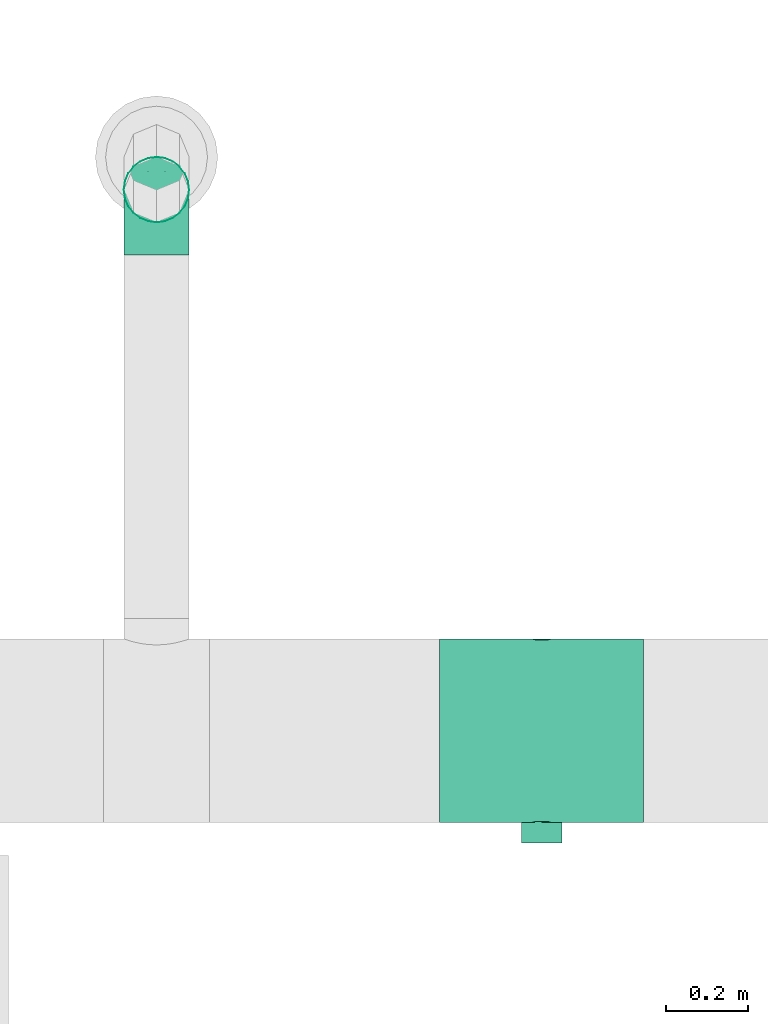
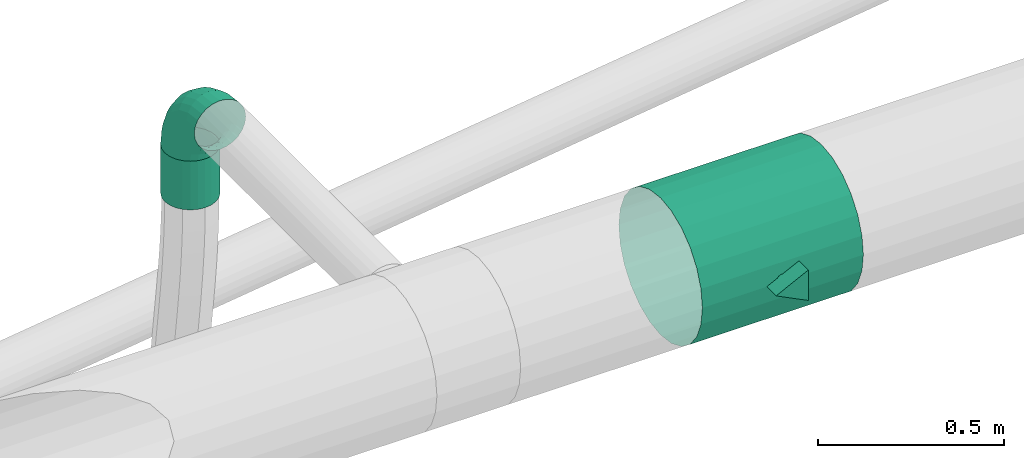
# One storey, part 165 of 374: 1 flow controller, 1 flow fitting, 1 flow segment.
"""IFC2X3 building model written with IfcOpenShell, lengths in metres."""

import ifcopenshell
import ifcopenshell.guid

model = None  # the IFC model being written
_history = None  # IfcOwnerHistory: only IFC2X3 demands one
_inside = {}  # id of a spatial element -> (the spatial element, [elements in it])
_under = {}  # id of a project, library or spatial element -> (it, [spatial elements below it])
_declared = {}  # id of a project -> (the project, [libraries it declares])
_typed = {}  # id of a type object -> (the type object, [elements of that type])
_made_of = {}  # id of a material, layer set ... -> (it, [elements and type objects made of it])


def new_model(schema):
    """Start an empty IFC model of exactly this schema.

    Asked for "IFC4X3", IfcOpenShell would pick the latest addendum, in which some entities
    have other attributes; the version numbers below select the first issue.
    IFC2X3 requires an IfcOwnerHistory on every rooted entity: one is made here for all.
    """
    global model, _history
    if schema == "IFC4X3":
        model = ifcopenshell.file(schema_version=(4, 3, 0, 0))
    else:
        model = ifcopenshell.file(schema=schema)
    _inside.clear()
    _under.clear()
    _declared.clear()
    _typed.clear()
    _made_of.clear()
    _history = None
    if model.schema == "IFC2X3":
        org = make("IfcOrganization", Name="unknown")
        user = make(
            "IfcPersonAndOrganization",
            ThePerson=make("IfcPerson", FamilyName="unknown"),
            TheOrganization=org,
        )
        app = make(
            "IfcApplication",
            ApplicationDeveloper=org,
            Version="unknown",
            ApplicationFullName="unknown",
            ApplicationIdentifier="unknown",
        )
        _history = make(
            "IfcOwnerHistory",
            OwningUser=user,
            OwningApplication=app,
            ChangeAction="ADDED",
            CreationDate=0,
        )
    return model


def make(cls, **values):
    """One entity of the class cls with the attributes given. An attribute that is None is left unset."""
    return model.create_entity(
        cls, **{name: value for name, value in values.items() if value is not None}
    )


def rooted(cls, **values):
    """An entity with a GlobalId (a new one), such as an element, a storey or a relation."""
    return make(cls, GlobalId=ifcopenshell.guid.new(), OwnerHistory=_history, **values)


def si_unit(unit_type, name, prefix=None):
    """IfcSIUnit, for example si_unit("LENGTHUNIT", "METRE", prefix="MILLI")."""
    return make("IfcSIUnit", UnitType=unit_type, Prefix=prefix, Name=name)


def assignment(units):
    """IfcUnitAssignment: the units of a project."""
    return None if units is None else make("IfcUnitAssignment", Units=units)


def point(xyz):
    """IfcCartesianPoint."""
    return None if xyz is None else make("IfcCartesianPoint", Coordinates=xyz)


def direction(xyz):
    """IfcDirection."""
    return None if xyz is None else make("IfcDirection", DirectionRatios=xyz)


def frame(location, z_axis=None, x_axis=None):
    """IfcAxis2Placement3D, a coordinate frame: its origin and axes. An axis left out is left unset."""
    return make(
        "IfcAxis2Placement3D",
        Location=point(location),
        Axis=direction(z_axis),
        RefDirection=direction(x_axis),
    )


def origin():
    """The frame at (0, 0, 0) with its axes left unset."""
    return frame((0.0, 0.0, 0.0))


def place(relative_to, where):
    """IfcLocalPlacement: puts the frame where relative to a parent placement (None: the world)."""
    return make(
        "IfcLocalPlacement", PlacementRelTo=relative_to, RelativePlacement=where
    )


def context(
    kind, dimensions, precision=None, world=None, true_north=None, identifier=None
):
    """IfcGeometricRepresentationContext, for example the 3D "Model" context."""
    return make(
        "IfcGeometricRepresentationContext",
        ContextIdentifier=identifier,
        ContextType=kind,
        CoordinateSpaceDimension=dimensions,
        Precision=precision,
        WorldCoordinateSystem=world,
        TrueNorth=true_north,
    )


def subcontext(parent, identifier, kind, view, scale=None):
    """IfcGeometricRepresentationSubContext, for example "Body" below "Model"."""
    return make(
        "IfcGeometricRepresentationSubContext",
        ContextIdentifier=identifier,
        ContextType=kind,
        ParentContext=parent,
        TargetScale=scale,
        TargetView=view,
    )


def project(units=None, contexts=None):
    """IfcProject with its units and contexts."""
    return rooted(
        "IfcProject",
        Name="project",
        RepresentationContexts=contexts,
        UnitsInContext=assignment(units),
    )


def spatial(cls, under=None, at=None, **own):
    """A site, building, storey or space (cls), placed at a placement, below another one or the project."""
    s = rooted(cls, ObjectPlacement=at, **own)
    if under is not None:
        _under.setdefault(under.id(), (under, []))[1].append(s)
    return s


def faces_of(points, faces, orient=None, outer=None):
    """IfcFace entities. A face is a list of loops; a loop is a list of indices into points, from 0.

    orient and outer hold one flag for each loop. By default every Orientation is true, the
    first loop of a face is its IfcFaceOuterBound and the others are IfcFaceBound.
    """
    made = []
    for i, loops in enumerate(faces):
        bounds = []
        for j, loop in enumerate(loops):
            is_outer = j == 0 if outer is None else outer[i][j]
            bounds.append(
                make(
                    "IfcFaceOuterBound" if is_outer else "IfcFaceBound",
                    Bound=make("IfcPolyLoop", Polygon=[points[k] for k in loop]),
                    Orientation=True if orient is None else orient[i][j],
                )
            )
        made.append(make("IfcFace", Bounds=bounds))
    return made


def open_shell(faces, orient=None, outer=None):
    """The faces of one IfcOpenShell. surface_model builds it on its shared points."""
    return ("IfcOpenShell", faces, orient, outer)


def surface_model(cls, points, shells):
    """IfcFaceBasedSurfaceModel or IfcShellBasedSurfaceModel (cls): surfaces that need not close."""
    shared = [point(p) for p in points]
    made = [make(c, CfsFaces=faces_of(shared, fs, o, b)) for c, fs, o, b in shells]
    if cls == "IfcFaceBasedSurfaceModel":
        return make(cls, FbsmFaces=made)
    return make(cls, SbsmBoundary=made)


def shape(context_of_items, identifier, shape_type, items):
    """IfcShapeRepresentation: the items that make up one representation, for example the "Body"."""
    return make(
        "IfcShapeRepresentation",
        ContextOfItems=context_of_items,
        RepresentationIdentifier=identifier,
        RepresentationType=shape_type,
        Items=items,
    )


def source(mapping_origin, context_of_items, identifier, shape_type, items):
    """IfcRepresentationMap: a shape defined once, which mapped items show again and again."""
    return make(
        "IfcRepresentationMap",
        MappingOrigin=mapping_origin,
        MappedRepresentation=shape(context_of_items, identifier, shape_type, items),
    )


def transform(
    local_origin,
    x_axis=None,
    y_axis=None,
    z_axis=None,
    scale=None,
    scale2=None,
    scale3=None,
    uniform=True,
):
    """IfcCartesianTransformationOperator3D, or its non-uniform kind. x_axis, y_axis, z_axis: its Axis1, 2, 3."""
    if uniform:
        return make(
            "IfcCartesianTransformationOperator3D",
            Axis1=direction(x_axis),
            Axis2=direction(y_axis),
            LocalOrigin=point(local_origin),
            Scale=scale,
            Axis3=direction(z_axis),
        )
    return make(
        "IfcCartesianTransformationOperator3DnonUniform",
        Axis1=direction(x_axis),
        Axis2=direction(y_axis),
        LocalOrigin=point(local_origin),
        Scale=scale,
        Axis3=direction(z_axis),
        Scale2=scale2,
        Scale3=scale3,
    )


def mapped(mapping_source, mapping_target):
    """IfcMappedItem: shows the shape of a source again, moved by a transform."""
    return make(
        "IfcMappedItem", MappingSource=mapping_source, MappingTarget=mapping_target
    )


def made_of(thing, what):
    """Note that an element or type object is made of a material, layer set ...; save() writes the relation."""
    if what is not None:
        _made_of.setdefault(what.id(), (what, []))[1].append(thing)
    return thing


def element(
    cls,
    number,
    at=None,
    inside=None,
    cuts=None,
    type_object=None,
    material=None,
    context=None,
    identifier="Body",
    shape_type=None,
    held_by="IfcProductDefinitionShape",
    body=None,
    shapes=None,
    **own,
):
    """One element of the class cls, such as IfcWall. Its Tag is "e" and its number.

    at: its placement. inside: the storey or other place that contains it. cuts: it is an
    opening in that element (IfcRelVoidsElement). A single representation is given by context,
    identifier, shape_type and body (its items); several are given by shapes. held_by: the class
    of the entity that holds the representations. save() writes the other relations.
    """
    e = rooted(cls, Tag="e%d" % number, ObjectPlacement=at, **own)
    if body is not None:
        shapes = [shape(context, identifier, shape_type, body)]
    if shapes is not None:
        e.Representation = make(held_by, Representations=shapes)
    if inside is not None:
        _inside.setdefault(inside.id(), (inside, []))[1].append(e)
    if cuts is not None:
        rooted(
            "IfcRelVoidsElement", RelatingBuildingElement=cuts, RelatedOpeningElement=e
        )
    if type_object is not None:
        _typed.setdefault(type_object.id(), (type_object, []))[1].append(e)
    return made_of(e, material)


def aggregate(whole, parts):
    """IfcRelAggregates: a whole, such as a stair, and the parts it consists of."""
    return rooted("IfcRelAggregates", RelatingObject=whole, RelatedObjects=parts)


def save(model, path):
    """Write the relations noted so far, then the file.

    IfcRelAggregates (storeys below a building ...), IfcRelContainedInSpatialStructure (elements
    in a storey), IfcRelDefinesByType, IfcRelAssociatesMaterial and IfcRelDeclares: one each for
    every whole, place, type object, material and project.
    """
    for whole, parts in _under.values():
        aggregate(whole, parts)
    for where, things in _inside.values():
        rooted(
            "IfcRelContainedInSpatialStructure",
            RelatedElements=things,
            RelatingStructure=where,
        )
    for kind, things in _typed.values():
        rooted("IfcRelDefinesByType", RelatedObjects=things, RelatingType=kind)
    for what, things in _made_of.values():
        rooted("IfcRelAssociatesMaterial", RelatedObjects=things, RelatingMaterial=what)
    for by, libraries in _declared.values():
        rooted("IfcRelDeclares", RelatingContext=by, RelatedDefinitions=libraries)
    model.write(path)


model = new_model("IFC2X3")

# Units and contexts
model_context = context("Model", 3, precision=1e-05, world=origin(), true_north=direction((-0.4480736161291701, 0.8939966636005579)))
body_context = subcontext(model_context, "Body", "Model", "MODEL_VIEW")
ifc_project = project(units=[si_unit("LENGTHUNIT", "METRE"), si_unit("AREAUNIT", "SQUARE_METRE"), si_unit("VOLUMEUNIT", "CUBIC_METRE"), si_unit("PLANEANGLEUNIT", "RADIAN"), si_unit("THERMODYNAMICTEMPERATUREUNIT", "KELVIN"), si_unit("MASSUNIT", "GRAM", prefix="KILO"), si_unit("TIMEUNIT", "SECOND")], contexts=[model_context])

# Site, building, storey
site_placement = place(None, origin())
site = spatial("IfcSite", under=ifc_project, at=site_placement, Name="Site 1", CompositionType="ELEMENT")
building_placement = place(site_placement, origin())
building = spatial("IfcBuilding", under=site, at=building_placement, Name="Undefined", CompositionType="ELEMENT")
storey_placement = place(building_placement, origin())
storey = spatial("IfcBuildingStorey", under=building, at=storey_placement, Name="Rez de chauss\x8ee", CompositionType="ELEMENT", Elevation=0.0)

# Flow fitting
shared_shape_1 = source(origin(), body_context, "Body", "SurfaceModel", [
    surface_model("IfcFaceBasedSurfaceModel", [(0.06265257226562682, -8.8817842e-16, 0.0), (0.062296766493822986, 0.02088115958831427, -7.105427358e-15), (0.0003558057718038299, 0.020881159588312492, 7.105427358e-15), (0.0, 0.0, 0.0), (-0.059474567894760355, 0.022956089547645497, -0.015896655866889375), (-0.06051773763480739, 0.002098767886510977, -0.01607928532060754), (-0.11311701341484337, 0.02696454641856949, -0.04660663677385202), (-0.11477645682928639, 0.006153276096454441, -0.04714207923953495), (-0.15691588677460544, 0.0326333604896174, -0.09003710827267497), (-0.15907851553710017, 0.01188721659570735, -0.09107150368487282), (-0.18788636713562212, 0.03957621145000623, -0.14322835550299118), (-0.1904048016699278, 0.01890983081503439, -0.14487384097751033), (-0.2039178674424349, 0.04731995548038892, -0.20255548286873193), (-0.20662048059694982, 0.026742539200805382, -0.20488255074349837), (0.061253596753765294, 0.04103889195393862, -0.0053597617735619), (0.0013989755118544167, 0.04103889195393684, -0.005359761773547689), (-0.05641614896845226, 0.04304393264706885, -0.02072097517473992), (-0.10825177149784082, 0.04691737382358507, -0.050396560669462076), (-0.15057538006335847, 0.05239524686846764, -0.09236417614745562), (-0.18050269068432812, 0.05910424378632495, -0.14376379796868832), (-0.19599420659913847, 0.06658715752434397, -0.20109262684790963), (0.05959415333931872, 0.05909948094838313, -0.01571402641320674), (0.003058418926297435, 0.05909948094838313, -0.01571402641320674), (-0.05155090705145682, 0.06099334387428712, -0.030223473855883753), (-0.10051228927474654, 0.06465200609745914, -0.058253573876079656), (-0.1404890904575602, 0.0698261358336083, -0.09789412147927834), (-0.16875695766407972, 0.0761631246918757, -0.14644367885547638), (-0.18338948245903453, 0.08323111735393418, -0.2005936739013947), (0.057431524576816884, 0.07383212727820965, -0.030357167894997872), (0.005221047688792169, 0.07383212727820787, -0.03035716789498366), (-0.0452104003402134, 0.07558110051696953, -0.04375657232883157), (-0.09042599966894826, 0.07895985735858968, -0.06964223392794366), (-0.12734438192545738, 0.08373814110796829, -0.10625008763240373), (-0.15344962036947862, 0.08959031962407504, -0.15108536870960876), (-0.16696268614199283, 0.0961175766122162, -0.20109262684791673), (0.054913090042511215, 0.0842328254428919, -0.048291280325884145), (0.007739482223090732, 0.08423282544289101, -0.04829128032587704), (-0.037826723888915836, 0.08581307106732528, -0.06039801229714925), (-0.07868026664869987, 0.08886587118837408, -0.08378642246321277), (-0.11203704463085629, 0.09318318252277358, -0.11686262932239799), (-0.13562384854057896, 0.09847078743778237, -0.1573725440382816), (-0.14783327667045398, 0.10436834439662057, -0.20255548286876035), (0.05221047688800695, 0.0895927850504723, -0.06829418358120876), (0.010442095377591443, 0.08959278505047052, -0.06829418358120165), (-0.029903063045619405, 0.09099196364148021, -0.07901370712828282), (-0.06607554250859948, 0.09369496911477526, -0.0997222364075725), (-0.0956102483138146, 0.0975175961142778, -0.12900851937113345), (-0.11649443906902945, 0.10219933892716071, -0.16487674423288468), (-0.12730489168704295, 0.1074211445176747, -0.2048825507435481), (0.04950786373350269, 0.08954673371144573, -0.08900271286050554), (0.013144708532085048, 0.08954673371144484, -0.08900271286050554), (-0.02197940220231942, 0.09076484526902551, -0.09833502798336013), (-0.05347081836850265, 0.09311805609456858, -0.11636367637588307), (-0.0791834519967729, 0.09644599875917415, -0.14186003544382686), (-0.09736502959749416, 0.10052187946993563, -0.17308657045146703), (-0.10677650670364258, 0.1050679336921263, -0.20791524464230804), (0.04698942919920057, 0.08409780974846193, -0.10900561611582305), (0.015663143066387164, 0.08409780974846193, -0.10900561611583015), (-0.014595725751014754, 0.08514719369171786, -0.11704525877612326), (-0.0417250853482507, 0.0871744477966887, -0.13257665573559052), (-0.06387611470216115, 0.09004141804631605, -0.15454136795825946), (-0.07953925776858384, 0.09355272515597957, -0.1814425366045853), (-0.08764709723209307, 0.09746907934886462, -0.21144689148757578), (0.04482680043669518, 0.0736173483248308, -0.12693972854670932), (0.017825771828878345, 0.0736173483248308, -0.12693972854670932), (-0.008255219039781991, 0.07452184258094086, -0.13386932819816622), (-0.03163879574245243, 0.0762691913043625, -0.14725628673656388), (-0.050731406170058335, 0.07874031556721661, -0.1661883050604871), (-0.06423192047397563, 0.08176681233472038, -0.18937519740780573), (-0.07122030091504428, 0.08514243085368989, -0.21523681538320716), (0.04316735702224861, 0.058819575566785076, -0.14158287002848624), (0.019485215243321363, 0.058819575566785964, -0.14158287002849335), (-0.0033899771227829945, 0.05961289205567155, -0.14766070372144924), (-0.02389931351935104, 0.06114546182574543, -0.15940217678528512), (-0.04064511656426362, 0.06331284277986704, -0.17600712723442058), (-0.052486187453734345, 0.06596733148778, -0.19634395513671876), (-0.05861557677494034, 0.06892802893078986, -0.2190267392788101), (0.04212418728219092, 0.040712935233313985, -0.15193713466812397), (0.020528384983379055, 0.040712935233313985, -0.15193713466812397), (-0.0003315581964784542, 0.041436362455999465, -0.15747952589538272), (-0.019034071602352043, 0.04283391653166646, -0.16818660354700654), (-0.03430460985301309, 0.04481035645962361, -0.1833286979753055), (-0.04510251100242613, 0.047230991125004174, -0.20187390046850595), (-0.05069191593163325, 0.04993085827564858, -0.22255838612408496), (0.04176838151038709, 0.02053136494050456, -0.15729689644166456), (0.020884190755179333, 0.02053136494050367, -0.15729689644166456), (0.0007116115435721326, 0.021230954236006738, -0.16265665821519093), (-0.017374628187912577, 0.022582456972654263, -0.17301092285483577), (-0.03214198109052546, 0.024493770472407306, -0.1876540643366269), (-0.042584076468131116, 0.026834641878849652, -0.20558817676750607), (-0.04798930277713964, 0.02944554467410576, -0.22559108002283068), (0.04212418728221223, -0.000349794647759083, -0.15729689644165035), (0.020528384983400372, -0.000349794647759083, -0.15729689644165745), (-0.0003315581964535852, 0.00037363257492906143, -0.1628392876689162), (-0.019034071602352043, 0.0017711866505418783, -0.17354636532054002), (-0.03430460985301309, 0.0037476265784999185, -0.18868845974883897), (-0.04510251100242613, 0.00616826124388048, -0.20723366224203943), (-0.05069191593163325, 0.008868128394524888, -0.22791814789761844), (0.04316735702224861, -0.020507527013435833, -0.15193713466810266), (0.019485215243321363, -0.020507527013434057, -0.15193713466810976), (-0.0033899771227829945, -0.019714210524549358, -0.15801496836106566), (-0.02389931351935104, -0.01818164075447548, -0.16975644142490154), (-0.04064511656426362, -0.01601425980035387, -0.186361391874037), (-0.052486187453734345, -0.013359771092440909, -0.20669821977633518), (-0.05861557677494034, -0.010399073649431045, -0.22938100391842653), (0.04482680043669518, -0.03856811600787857, -0.1415828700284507), (0.017825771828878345, -0.03856811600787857, -0.1415828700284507), (-0.008255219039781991, -0.03766362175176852, -0.1485124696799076), (-0.03163879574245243, -0.03591627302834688, -0.16189942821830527), (-0.050731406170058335, -0.03344514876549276, -0.1808314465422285), (-0.06423192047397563, -0.030418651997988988, -0.20401833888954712), (-0.07122030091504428, -0.027043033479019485, -0.22987995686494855), (0.04698942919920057, -0.05330076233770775, -0.12693972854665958), (0.015663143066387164, -0.05330076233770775, -0.12693972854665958), (-0.014595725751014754, -0.05225137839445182, -0.1349793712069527), (-0.0417250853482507, -0.05022412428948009, -0.15051076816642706), (-0.06387611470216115, -0.047357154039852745, -0.172475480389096), (-0.07953925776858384, -0.043845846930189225, -0.19937664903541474), (-0.08764709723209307, -0.03992949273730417, -0.2293810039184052), (0.04950786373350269, -0.06370146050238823, -0.10900561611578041), (0.013144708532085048, -0.06370146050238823, -0.10900561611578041), (-0.02197940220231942, -0.06248334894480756, -0.11833793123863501), (-0.05347081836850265, -0.06013013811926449, -0.13636657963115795), (-0.0791834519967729, -0.05680219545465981, -0.16186293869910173), (-0.09736502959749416, -0.05272631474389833, -0.1930894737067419), (-0.10677650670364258, -0.04818026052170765, -0.2279181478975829), (0.05221047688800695, -0.06906142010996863, -0.08900271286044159), (0.010442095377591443, -0.06906142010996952, -0.08900271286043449), (-0.029903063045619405, -0.06766224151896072, -0.09972223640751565), (-0.06607554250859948, -0.06495923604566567, -0.12043076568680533), (-0.0956102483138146, -0.06113660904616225, -0.14971704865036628), (-0.11649443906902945, -0.05645486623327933, -0.1855852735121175), (-0.12730489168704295, -0.05123306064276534, -0.22559108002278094), (0.054913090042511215, -0.06901536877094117, -0.06829418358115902), (0.007739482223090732, -0.06901536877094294, -0.06829418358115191), (-0.037826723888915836, -0.06743512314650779, -0.08040091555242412), (-0.07868026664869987, -0.06438232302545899, -0.10378932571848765), (-0.11203704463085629, -0.06006501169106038, -0.13686553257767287), (-0.13562384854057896, -0.0547774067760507, -0.17737544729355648), (-0.14783327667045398, -0.04887984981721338, -0.22255838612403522), (0.057431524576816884, -0.06356644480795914, -0.0482912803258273), (0.005221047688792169, -0.06356644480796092, -0.04829128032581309), (-0.0452104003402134, -0.061817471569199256, -0.0616906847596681), (-0.09042599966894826, -0.05843871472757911, -0.0875763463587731), (-0.12734438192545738, -0.05366043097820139, -0.12418420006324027), (-0.15344962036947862, -0.04780825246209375, -0.1690194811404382), (-0.16696268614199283, -0.041280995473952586, -0.21902673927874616), (0.05959415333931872, -0.05308598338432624, -0.030357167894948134), (0.003058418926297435, -0.05308598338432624, -0.030357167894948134), (-0.05155090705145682, -0.05119212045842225, -0.04486661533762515), (-0.10051228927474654, -0.04753345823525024, -0.07289671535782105), (-0.1404890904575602, -0.04235932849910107, -0.11253726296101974), (-0.16875695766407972, -0.03602233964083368, -0.16108682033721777), (-0.18338948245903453, -0.02895434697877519, -0.2152368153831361), (0.061253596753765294, -0.03828821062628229, -0.015714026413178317), (0.0013989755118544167, -0.03828821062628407, -0.015714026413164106), (-0.05641614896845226, -0.03628316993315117, -0.031075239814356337), (-0.10825177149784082, -0.03240972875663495, -0.06075082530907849), (-0.15057538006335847, -0.026931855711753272, -0.10271844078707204), (-0.18050269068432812, -0.02022285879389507, -0.15411806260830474), (-0.19599420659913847, -0.012739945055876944, -0.21144689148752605), (0.062296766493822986, -0.020181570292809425, -0.005359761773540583), (0.0003558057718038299, -0.020181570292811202, -0.0053597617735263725), (-0.059474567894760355, -0.018106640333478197, -0.021256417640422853), (-0.11311701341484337, -0.014098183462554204, -0.051966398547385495), (-0.15691588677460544, -0.00842936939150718, -0.09539687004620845), (-0.18788636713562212, -0.0014865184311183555, -0.14858811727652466), (-0.2039178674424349, 0.006257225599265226, -0.2079152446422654)], [open_shell([[[0, 1, 2, 3]], [[3, 2, 4, 5]], [[5, 4, 6, 7]], [[7, 6, 8, 9]], [[9, 8, 10, 11]], [[11, 10, 12, 13]], [[1, 14, 15, 2]], [[2, 15, 16, 4]], [[4, 16, 17, 6]], [[6, 17, 18, 8]], [[8, 18, 19, 10]], [[10, 19, 20, 12]], [[14, 21, 22, 15]], [[15, 22, 23, 16]], [[16, 23, 24, 17]], [[17, 24, 25, 18]], [[18, 25, 26, 19]], [[19, 26, 27, 20]], [[21, 28, 29, 22]], [[22, 29, 30, 23]], [[23, 30, 31, 24]], [[24, 31, 32, 25]], [[25, 32, 33, 26]], [[26, 33, 34, 27]], [[28, 35, 36, 29]], [[29, 36, 37, 30]], [[30, 37, 38, 31]], [[31, 38, 39, 32]], [[32, 39, 40, 33]], [[33, 40, 41, 34]], [[35, 42, 43, 36]], [[36, 43, 44, 37]], [[37, 44, 45, 38]], [[38, 45, 46, 39]], [[39, 46, 47, 40]], [[40, 47, 48, 41]], [[42, 49, 50, 43]], [[43, 50, 51, 44]], [[44, 51, 52, 45]], [[45, 52, 53, 46]], [[46, 53, 54, 47]], [[47, 54, 55, 48]], [[49, 56, 57, 50]], [[50, 57, 58, 51]], [[51, 58, 59, 52]], [[52, 59, 60, 53]], [[53, 60, 61, 54]], [[54, 61, 62, 55]], [[56, 63, 64, 57]], [[57, 64, 65, 58]], [[58, 65, 66, 59]], [[59, 66, 67, 60]], [[60, 67, 68, 61]], [[61, 68, 69, 62]], [[63, 70, 71, 64]], [[64, 71, 72, 65]], [[65, 72, 73, 66]], [[66, 73, 74, 67]], [[67, 74, 75, 68]], [[68, 75, 76, 69]], [[70, 77, 78, 71]], [[71, 78, 79, 72]], [[72, 79, 80, 73]], [[73, 80, 81, 74]], [[74, 81, 82, 75]], [[75, 82, 83, 76]], [[77, 84, 85, 78]], [[78, 85, 86, 79]], [[79, 86, 87, 80]], [[80, 87, 88, 81]], [[81, 88, 89, 82]], [[82, 89, 90, 83]], [[84, 91, 92, 85]], [[85, 92, 93, 86]], [[86, 93, 94, 87]], [[87, 94, 95, 88]], [[88, 95, 96, 89]], [[89, 96, 97, 90]], [[91, 98, 99, 92]], [[92, 99, 100, 93]], [[93, 100, 101, 94]], [[94, 101, 102, 95]], [[95, 102, 103, 96]], [[96, 103, 104, 97]], [[98, 105, 106, 99]], [[99, 106, 107, 100]], [[100, 107, 108, 101]], [[101, 108, 109, 102]], [[102, 109, 110, 103]], [[103, 110, 111, 104]], [[105, 112, 113, 106]], [[106, 113, 114, 107]], [[107, 114, 115, 108]], [[108, 115, 116, 109]], [[109, 116, 117, 110]], [[110, 117, 118, 111]], [[112, 119, 120, 113]], [[113, 120, 121, 114]], [[114, 121, 122, 115]], [[115, 122, 123, 116]], [[116, 123, 124, 117]], [[117, 124, 125, 118]], [[119, 126, 127, 120]], [[120, 127, 128, 121]], [[121, 128, 129, 122]], [[122, 129, 130, 123]], [[123, 130, 131, 124]], [[124, 131, 132, 125]], [[126, 133, 134, 127]], [[127, 134, 135, 128]], [[128, 135, 136, 129]], [[129, 136, 137, 130]], [[130, 137, 138, 131]], [[131, 138, 139, 132]], [[133, 140, 141, 134]], [[134, 141, 142, 135]], [[135, 142, 143, 136]], [[136, 143, 144, 137]], [[137, 144, 145, 138]], [[138, 145, 146, 139]], [[140, 147, 148, 141]], [[141, 148, 149, 142]], [[142, 149, 150, 143]], [[143, 150, 151, 144]], [[144, 151, 152, 145]], [[145, 152, 153, 146]], [[147, 154, 155, 148]], [[148, 155, 156, 149]], [[149, 156, 157, 150]], [[150, 157, 158, 151]], [[151, 158, 159, 152]], [[152, 159, 160, 153]], [[154, 161, 162, 155]], [[155, 162, 163, 156]], [[156, 163, 164, 157]], [[157, 164, 165, 158]], [[158, 165, 166, 159]], [[159, 166, 167, 160]], [[161, 0, 3, 162]], [[162, 3, 5, 163]], [[163, 5, 7, 164]], [[164, 7, 9, 165]], [[165, 9, 11, 166]], [[166, 11, 13, 167]]])]),
])
flow_fitting_placement = place(storey_placement, origin())
element("IfcFlowFitting", 1, at=flow_fitting_placement, inside=storey, Name="Coude", ObjectType="Coude", context=body_context, shape_type="MappedRepresentation", body=[
    mapped(shared_shape_1, transform((49.430711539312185, 21.92514358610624, 3.7021165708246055), x_axis=(0.0, 0.13052619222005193, -0.9914448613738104), y_axis=(-0.9915887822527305, -0.12832103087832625, -0.016893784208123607), z_axis=(-0.12942830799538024, 0.9831056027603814, 0.12942830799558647))),
])

# Flow controller
shared_shape_2 = source(origin(), body_context, "Body", "SurfaceModel", [
    surface_model("IfcFaceBasedSurfaceModel", [(0.059130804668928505, 0.0, 8.8817842e-16), (0.0648933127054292, 0.049666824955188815, 8.8817842e-16), (0.006547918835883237, 0.0564362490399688, 0.0), (0.0, 0.0, 0.0), (-0.04980940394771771, 0.0629750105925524, -0.015202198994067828), (-0.058660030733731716, -0.013308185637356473, -0.015202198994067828), (-0.10033799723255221, 0.06883750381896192, -0.04457059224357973), (-0.11285170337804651, -0.03901762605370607, -0.04457059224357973), (-0.14159442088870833, 0.07362420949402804, -0.0861037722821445), (-0.15888194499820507, -0.0753762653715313, -0.0861037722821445), (-0.1707671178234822, 0.07700892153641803, -0.13697132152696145), (-0.1936138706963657, -0.11990632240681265, -0.13697132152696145), (-0.18586801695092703, 0.0787609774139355, -0.19370670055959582), (-0.21468055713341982, -0.16957314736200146, -0.19370670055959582), (-0.18586801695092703, 0.0787609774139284, -0.25244348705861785), (-0.2206463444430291, -0.22099202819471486, -0.25244348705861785), (-0.1707671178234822, 0.07700892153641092, -0.3091788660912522), (-0.21110467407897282, -0.2706588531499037, -0.3091788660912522), (-0.14159442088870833, 0.07362420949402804, -0.3600464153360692), (-0.18670579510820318, -0.31518891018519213, -0.3600464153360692), (-0.10033799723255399, 0.06883750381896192, -0.40157959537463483), (-0.14911245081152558, -0.35154754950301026, -0.40157959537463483), (-0.04980940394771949, 0.0629750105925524, -0.43094798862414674), (-0.10088656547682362, -0.37725698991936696, -0.43094798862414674), (0.006547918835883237, 0.056436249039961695, -0.44615018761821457), (-0.04531465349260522, -0.39056517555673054, -0.44615018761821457), (0.0648933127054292, 0.049666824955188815, -0.44615018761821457), (0.013816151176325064, -0.39056517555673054, -0.44615018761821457), (0.12125063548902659, 0.04312806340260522, -0.43094798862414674), (0.072476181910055, -0.37725698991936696, -0.43094798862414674), (0.1717792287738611, 0.037265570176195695, -0.4015795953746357), (0.12666785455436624, -0.35154754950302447, -0.4015795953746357), (0.21303565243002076, 0.03247886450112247, -0.3600464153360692), (0.17269809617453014, -0.31518891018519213, -0.3600464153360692), (0.24220834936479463, 0.029094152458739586, -0.3091788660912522), (0.20743002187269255, -0.2706588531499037, -0.3091788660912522), (0.2573092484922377, 0.027342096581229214, -0.25244348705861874), (0.2284967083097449, -0.22099202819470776, -0.25244348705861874), (0.25730924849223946, 0.027342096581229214, -0.19370670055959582), (0.23446249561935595, -0.16957314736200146, -0.19370670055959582), (0.24220834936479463, 0.029094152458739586, -0.13697132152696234), (0.22492082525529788, -0.11990632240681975, -0.13697132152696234), (0.2130356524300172, 0.03247886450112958, -0.0861037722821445), (0.2005219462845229, -0.07537626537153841, -0.0861037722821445), (0.17177922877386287, 0.037265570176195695, -0.04457059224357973), (0.16292860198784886, -0.03901762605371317, -0.04457059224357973), (0.12125063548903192, 0.04312806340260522, -0.015202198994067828), (0.11470271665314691, -0.013308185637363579, -0.015202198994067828), (0.007268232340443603, -0.44700142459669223, 8.8817842e-16), (-0.051077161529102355, -0.44023200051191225, 0.0), (-0.1074344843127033, -0.43369323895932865, -0.015202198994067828), (-0.1579630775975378, -0.4278307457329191, -0.04457059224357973), (-0.19921950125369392, -0.423044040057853, -0.0861037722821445), (-0.2283921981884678, -0.419659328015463, -0.13697132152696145), (-0.24349309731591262, -0.41790727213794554, -0.19370670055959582), (-0.24349309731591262, -0.41790727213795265, -0.25244348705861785), (-0.2283921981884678, -0.4196593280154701, -0.3091788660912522), (-0.19921950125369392, -0.423044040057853, -0.3600464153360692), (-0.15796307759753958, -0.4278307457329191, -0.40157959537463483), (-0.10743448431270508, -0.43369323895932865, -0.43094798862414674), (-0.051077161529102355, -0.44023200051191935, -0.44615018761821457), (0.007268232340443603, -0.44700142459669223, -0.44615018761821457), (0.063625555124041, -0.4535401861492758, -0.43094798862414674), (0.1141541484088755, -0.45940267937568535, -0.4015795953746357), (0.15541057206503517, -0.4641893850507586, -0.3600464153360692), (0.18458326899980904, -0.46757409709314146, -0.3091788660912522), (0.1996841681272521, -0.46932615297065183, -0.25244348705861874), (0.19968416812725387, -0.46932615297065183, -0.19370670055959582), (0.18458326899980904, -0.46757409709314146, -0.13697132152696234), (0.15541057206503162, -0.46418938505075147, -0.0861037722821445), (0.11415414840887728, -0.45940267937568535, -0.04457059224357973), (0.06362555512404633, -0.4535401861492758, -0.015202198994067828), (0.2314139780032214, -0.22133049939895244, -0.23013597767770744), (0.23198572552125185, -0.21553434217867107, -0.23089608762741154), (-0.21119153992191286, -0.16411546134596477, -0.17215930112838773), (-0.21176328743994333, -0.16991161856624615, -0.17139919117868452), (0.23231970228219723, -0.21011011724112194, -0.23312461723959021), (-0.2108575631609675, -0.15869123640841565, -0.1743878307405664), (0.2323931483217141, -0.20542747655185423, -0.236669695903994), (-0.21078411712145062, -0.15400859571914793, -0.1779329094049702), (0.23220105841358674, -0.20180553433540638, -0.24128973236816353), (-0.21097620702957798, -0.15038665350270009, -0.18255294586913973), (0.23175652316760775, -0.19949111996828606, -0.2466698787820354), (-0.21142074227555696, -0.14807223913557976, -0.18793309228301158), (0.23108983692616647, -0.1986419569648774, -0.25244348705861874), (-0.21208742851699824, -0.14722307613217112, -0.19370670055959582), (0.23024643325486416, -0.1993159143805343, -0.2582170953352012), (-0.21293083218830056, -0.14789703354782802, -0.1994803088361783), (0.22928378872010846, -0.2014670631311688, -0.26359724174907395), (-0.21389347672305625, -0.1500481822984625, -0.20486045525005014), (0.22826750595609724, -0.20494880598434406, -0.2682172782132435), (-0.21490975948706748, -0.15352992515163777, -0.20948049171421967), (0.22726684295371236, -0.20952386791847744, -0.27176235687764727), (-0.21591042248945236, -0.15810498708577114, -0.21302557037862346), (0.22634999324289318, -0.21488046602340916, -0.27399088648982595), (-0.21682727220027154, -0.16346158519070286, -0.21525409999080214), (0.22557943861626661, -0.22065355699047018, -0.27475099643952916), (-0.2175978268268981, -0.16923467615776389, -0.21601420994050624), (0.2250076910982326, -0.22644971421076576, -0.27399088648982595), (-0.21816957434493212, -0.17503083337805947, -0.21525409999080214), (0.224673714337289, -0.2318739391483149, -0.27176235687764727), (-0.21850355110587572, -0.1804550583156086, -0.21302557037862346), (0.22460026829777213, -0.2365565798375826, -0.2682172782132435), (-0.21857699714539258, -0.1851376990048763, -0.20948049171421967), (0.22479235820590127, -0.24017852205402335, -0.26359724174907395), (-0.21838490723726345, -0.18875964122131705, -0.20486045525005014), (0.2252368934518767, -0.24249293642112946, -0.2582170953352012), (-0.21794037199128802, -0.19107405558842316, -0.1994803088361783), (0.22590357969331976, -0.2433420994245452, -0.25244348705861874), (-0.21727368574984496, -0.19192321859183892, -0.19370670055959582), (0.2267469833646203, -0.2426681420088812, -0.2466698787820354), (-0.21643028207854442, -0.1912492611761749, -0.18793309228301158), (0.22770962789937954, -0.24051699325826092, -0.24128973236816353), (-0.21546763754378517, -0.18909811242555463, -0.18255294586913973), (0.228725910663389, -0.23703525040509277, -0.236669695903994), (-0.21445135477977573, -0.18561636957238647, -0.1779329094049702), (0.22972657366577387, -0.2324601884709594, -0.23312461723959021), (-0.21345069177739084, -0.1810413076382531, -0.1743878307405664), (0.23064342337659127, -0.22710359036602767, -0.23089608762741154), (-0.21253384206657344, -0.17568470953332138, -0.17215930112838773), (-0.22692588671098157, -0.21848781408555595, -0.24327894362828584), (-0.21396024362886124, -0.21999213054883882, -0.14413445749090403), (-0.2632021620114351, -0.214278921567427, -0.1376081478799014), (-0.27616780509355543, -0.21277460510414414, -0.2367526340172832), (-0.2089180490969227, -0.11990632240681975, -0.19370670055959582), (-0.25815996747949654, -0.11419311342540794, -0.18718039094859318)], [open_shell([[[0, 1, 2, 3]], [[3, 2, 4, 5]], [[5, 4, 6, 7]], [[7, 6, 8, 9]], [[9, 8, 10, 11]], [[11, 10, 12, 13]], [[13, 12, 14, 15]], [[15, 14, 16, 17]], [[17, 16, 18, 19]], [[19, 18, 20, 21]], [[21, 20, 22, 23]], [[23, 22, 24, 25]], [[25, 24, 26, 27]], [[27, 26, 28, 29]], [[29, 28, 30, 31]], [[31, 30, 32, 33]], [[33, 32, 34, 35]], [[35, 34, 36, 37]], [[37, 36, 38, 39]], [[39, 38, 40, 41]], [[41, 40, 42, 43]], [[43, 42, 44, 45]], [[45, 44, 46, 47]], [[47, 46, 1, 0]], [[48, 0, 3, 49]], [[49, 3, 5, 50]], [[50, 5, 7, 51]], [[51, 7, 9, 52]], [[52, 9, 11, 53]], [[53, 11, 13, 54]], [[54, 13, 15, 55]], [[55, 15, 17, 56]], [[56, 17, 19, 57]], [[57, 19, 21, 58]], [[58, 21, 23, 59]], [[59, 23, 25, 60]], [[60, 25, 27, 61]], [[61, 27, 29, 62]], [[62, 29, 31, 63]], [[63, 31, 33, 64]], [[64, 33, 35, 65]], [[65, 35, 37, 66]], [[66, 37, 39, 67]], [[67, 39, 41, 68]], [[68, 41, 43, 69]], [[69, 43, 45, 70]], [[70, 45, 47, 71]], [[71, 47, 0, 48]], [[72, 73, 74, 75]], [[73, 76, 77, 74]], [[76, 78, 79, 77]], [[78, 80, 81, 79]], [[80, 82, 83, 81]], [[82, 84, 85, 83]], [[84, 86, 87, 85]], [[86, 88, 89, 87]], [[88, 90, 91, 89]], [[90, 92, 93, 91]], [[92, 94, 95, 93]], [[94, 96, 97, 95]], [[96, 98, 99, 97]], [[98, 100, 101, 99]], [[100, 102, 103, 101]], [[102, 104, 105, 103]], [[104, 106, 107, 105]], [[106, 108, 109, 107]], [[108, 110, 111, 109]], [[110, 112, 113, 111]], [[112, 114, 115, 113]], [[114, 116, 117, 115]], [[116, 118, 119, 117]], [[118, 72, 75, 119]], [[37, 73, 72]], [[37, 76, 73]], [[37, 78, 76]], [[37, 80, 78]], [[37, 82, 80]], [[37, 84, 82]], [[37, 86, 84]], [[37, 88, 86]], [[37, 90, 88]], [[37, 92, 90]], [[37, 94, 92]], [[37, 96, 94]], [[37, 98, 96]], [[37, 100, 98]], [[37, 102, 100]], [[37, 104, 102]], [[37, 106, 104]], [[37, 108, 106]], [[37, 110, 108]], [[37, 112, 110]], [[37, 114, 112]], [[37, 116, 114]], [[37, 118, 116]], [[37, 72, 118]], [[13, 119, 75]], [[13, 117, 119]], [[13, 115, 117]], [[13, 113, 115]], [[13, 111, 113]], [[13, 109, 111]], [[13, 107, 109]], [[13, 105, 107]], [[13, 103, 105]], [[13, 101, 103]], [[13, 99, 101]], [[13, 97, 99]], [[13, 95, 97]], [[13, 93, 95]], [[13, 91, 93]], [[13, 89, 91]], [[13, 87, 89]], [[13, 85, 87]], [[13, 83, 85]], [[13, 81, 83]], [[13, 79, 81]], [[13, 77, 79]], [[13, 74, 77]], [[13, 75, 74]], [[120, 121, 122, 123]], [[121, 124, 125, 122]], [[124, 120, 123, 125]], [[123, 122, 125]], [[124, 121, 120]]])]),
])
flow_controller_placement = place(storey_placement, origin())
element("IfcFlowController", 2, at=flow_controller_placement, inside=storey, Name="Clapet de réglage cylindrique", ObjectType="Clapet de réglage cylindrique", context=body_context, shape_type="MappedRepresentation", body=[
    mapped(shared_shape_2, transform((50.18180990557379, 20.468653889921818, 4.017333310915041), x_axis=(-0.11525016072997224, 0.9848383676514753, 0.12965643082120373), y_axis=(-0.9933364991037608, -0.11426417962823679, -0.0150431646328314), z_axis=(0.0, -0.1305261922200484, 0.9914448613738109))),
])

# Flow segment
shared_shape_3 = source(origin(), body_context, "Body", "SurfaceModel", [
    surface_model("IfcFaceBasedSurfaceModel", [(0.0, 0.020884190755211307, 0.0), (0.0, 0.0, 0.0), (0.16000000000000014, 0.0, -4.4408921e-16), (0.16000000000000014, 0.0208841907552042, -4.4408921e-16), (0.0, -0.020172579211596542, -0.005405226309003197), (0.16000000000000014, -0.020172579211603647, -0.005405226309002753), (0.0, -0.03825881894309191, -0.015847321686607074), (0.16000000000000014, -0.03825881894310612, -0.015847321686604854), (0.0, -0.05302617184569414, -0.0306146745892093), (0.16000000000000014, -0.05302617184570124, -0.03061467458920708), (0.0, -0.06346826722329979, -0.04870091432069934), (0.16000000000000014, -0.0634682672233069, -0.04870091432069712), (0.0, -0.06887349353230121, -0.06887349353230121), (0.16000000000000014, -0.06887349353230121, -0.06887349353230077), (0.0, -0.06887349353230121, -0.08975768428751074), (0.16000000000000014, -0.06887349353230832, -0.08975768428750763), (0.0, -0.06346826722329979, -0.10993026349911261), (0.16000000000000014, -0.0634682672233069, -0.10993026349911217), (0.0, -0.05302617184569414, -0.12801650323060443), (0.16000000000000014, -0.05302617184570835, -0.1280165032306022), (0.0, -0.038258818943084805, -0.14278385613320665), (0.16000000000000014, -0.03825881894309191, -0.14278385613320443), (0.0, -0.020172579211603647, -0.15322595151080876), (0.16000000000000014, -0.020172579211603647, -0.1532259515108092), (0.0, 7.105427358e-15, -0.15863117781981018), (0.16000000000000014, -7.105427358e-15, -0.15863117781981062), (0.0, 0.020884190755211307, -0.15863117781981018), (0.16000000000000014, 0.0208841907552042, -0.15863117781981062), (0.0, 0.04105676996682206, -0.15322595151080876), (0.16000000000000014, 0.04105676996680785, -0.1532259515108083), (0.0, 0.05914300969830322, -0.1427838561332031), (0.16000000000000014, 0.05914300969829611, -0.14278385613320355), (0.0, 0.07391036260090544, -0.12801650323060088), (0.16000000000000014, 0.07391036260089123, -0.1280165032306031), (0.0, 0.0843524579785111, -0.10993026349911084), (0.16000000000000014, 0.08435245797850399, -0.10993026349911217), (0.0, 0.08975768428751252, -0.08975768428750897), (0.16000000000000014, 0.08975768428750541, -0.08975768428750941), (0.0, 0.08975768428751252, -0.06887349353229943), (0.16000000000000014, 0.08975768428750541, -0.06887349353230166), (0.0, 0.0843524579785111, -0.048700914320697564), (0.16000000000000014, 0.08435245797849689, -0.04870091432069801), (0.0, 0.07391036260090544, -0.030614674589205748), (0.16000000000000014, 0.07391036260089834, -0.03061467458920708), (0.0, 0.05914300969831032, -0.015847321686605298), (0.16000000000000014, 0.05914300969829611, -0.01584732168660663), (0.0, 0.04105676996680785, -0.005405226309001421), (0.16000000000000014, 0.04105676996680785, -0.005405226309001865)], [open_shell([[[0, 1, 2, 3]], [[1, 4, 5, 2]], [[4, 6, 7, 5]], [[6, 8, 9, 7]], [[8, 10, 11, 9]], [[10, 12, 13, 11]], [[12, 14, 15, 13]], [[14, 16, 17, 15]], [[16, 18, 19, 17]], [[18, 20, 21, 19]], [[20, 22, 23, 21]], [[22, 24, 25, 23]], [[24, 26, 27, 25]], [[26, 28, 29, 27]], [[28, 30, 31, 29]], [[30, 32, 33, 31]], [[32, 34, 35, 33]], [[34, 36, 37, 35]], [[36, 38, 39, 37]], [[38, 40, 41, 39]], [[40, 42, 43, 41]], [[42, 44, 45, 43]], [[44, 46, 47, 45]], [[46, 0, 3, 47]]])]),
])
flow_segment_placement = place(storey_placement, origin())
element("IfcFlowSegment", 3, at=flow_segment_placement, inside=storey, Name="Tube", ObjectType="Tube", context=body_context, shape_type="MappedRepresentation", body=[
    mapped(shared_shape_3, transform((49.45141706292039, 21.77604732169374, 3.4800000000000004), x_axis=(0.0, 0.0, 1.0), y_axis=(-0.9914448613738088, -0.13052619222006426, 0.0), z_axis=(0.13052619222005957, -0.9914448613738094, 0.0))),
])

save(model, "model.ifc")
